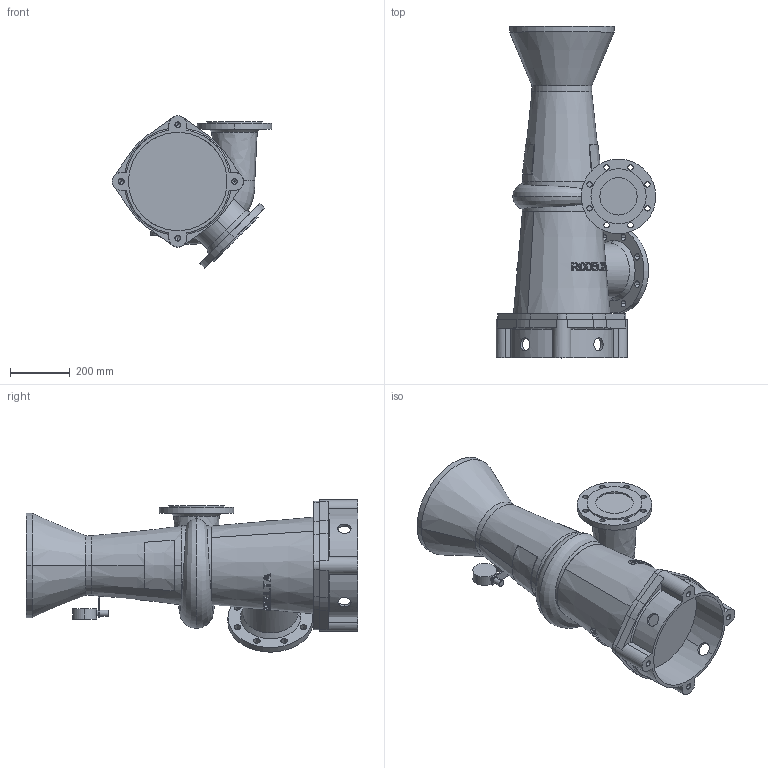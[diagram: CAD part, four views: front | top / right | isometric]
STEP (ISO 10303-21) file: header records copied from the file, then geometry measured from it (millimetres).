
FILE_DESCRIPTION((''),'2;1');
FILE_NAME('NS6210_ASM','2024-07-17T',('Lyritlocal'),(''),'PRO/ENGINEER BY PARAMETRIC TECHNOLOGY CORPORATION, 2016360','PRO/ENGINEER BY PARAMETRIC TECHNOLOGY CORPORATION, 2016360','');
FILE_SCHEMA(('CONFIG_CONTROL_DESIGN'));
Length unit declared in the file: millimetre
Products named in the file (3): 6210_VOET; 6210; NS6210_ASM
Assembly tree (2 placements, depth 2):
  NS6210_ASM
    6210_VOET
    6210
Bounding box: 535 x 1112 x 510.46 mm (x, y, z)
Volume: 73509644.5 mm3; surface area: 2060130 mm2
Topology: 2 solids, 6 shells, 517 faces, 1386 edges, 915 vertices
Faces by surface type: plane 342, cylinder 125, cone 40, bspline 6, torus 4
Entity records: 18499 total; most frequent: CARTESIAN_POINT 5977, ORIENTED_EDGE 2740, DIRECTION 2341, EDGE_CURVE 1378, VERTEX_POINT 915, AXIS2_PLACEMENT_3D 908, EDGE_LOOP 607, VECTOR 525
